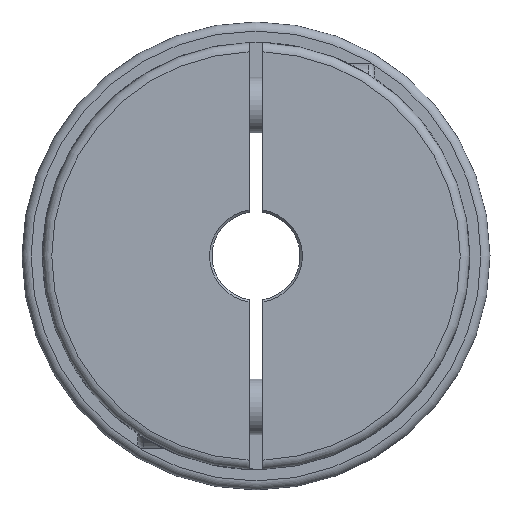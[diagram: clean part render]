
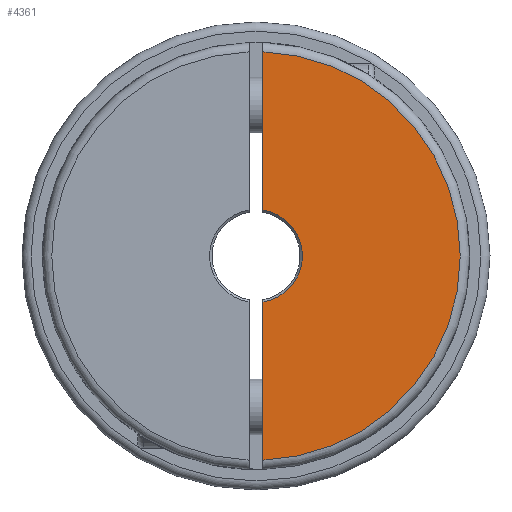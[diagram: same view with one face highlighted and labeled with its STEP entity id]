
A CAD part, left-side view. The second image highlights one B-rep face of the part: STEP entity #4361.
In plain terms, the highlighted planar face has unit normal (-1, 0, 0).
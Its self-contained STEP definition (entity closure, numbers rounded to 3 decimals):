
#154=LINE('',#7092,#306);
#163=LINE('',#7117,#315);
#306=VECTOR('',#5486,1000.);
#315=VECTOR('',#5499,1000.);
#438=PLANE('',#4734);
#1117=ORIENTED_EDGE('',*,*,#1605,.F.);
#1118=ORIENTED_EDGE('',*,*,#1532,.F.);
#1119=ORIENTED_EDGE('',*,*,#1594,.T.);
#1120=ORIENTED_EDGE('',*,*,#1618,.T.);
#1532=EDGE_CURVE('',#1861,#1863,#2087,.T.);
#1594=EDGE_CURVE('',#1861,#1912,#154,.T.);
#1605=EDGE_CURVE('',#1863,#1916,#163,.T.);
#1618=EDGE_CURVE('',#1912,#1916,#2128,.T.);
#1861=VERTEX_POINT('',#6654);
#1863=VERTEX_POINT('',#6657);
#1912=VERTEX_POINT('',#7093);
#1916=VERTEX_POINT('',#7118);
#2087=CIRCLE('',#4652,10.);
#2128=CIRCLE('',#4722,44.);
#2390=EDGE_LOOP('',(#1117,#1118,#1119,#1120));
#2692=FACE_BOUND('',#2390,.T.);
#4361=ADVANCED_FACE('',(#2692),#438,.T.);
#4652=AXIS2_PLACEMENT_3D('',#6656,#5360,#5361);
#4722=AXIS2_PLACEMENT_3D('',#7151,#5524,#5525);
#4734=AXIS2_PLACEMENT_3D('',#7163,#5548,#5549);
#5360=DIRECTION('',(-1.,0.,0.));
#5361=DIRECTION('',(0.,0.,1.));
#5486=DIRECTION('',(0.,0.,-1.));
#5499=DIRECTION('',(0.,0.,1.));
#5524=DIRECTION('',(-1.,0.,0.));
#5525=DIRECTION('',(0.,0.,1.));
#5548=DIRECTION('',(-1.,0.,0.));
#5549=DIRECTION('',(0.,0.,1.));
#6654=CARTESIAN_POINT('',(-38.434,-1.5,-9.887));
#6656=CARTESIAN_POINT('',(-38.434,0.,0.));
#6657=CARTESIAN_POINT('',(-38.434,-1.5,9.887));
#7092=CARTESIAN_POINT('',(-38.434,-1.5,46.));
#7093=CARTESIAN_POINT('',(-38.434,-1.5,-43.974));
#7117=CARTESIAN_POINT('',(-38.434,-1.5,46.));
#7118=CARTESIAN_POINT('',(-38.434,-1.5,43.974));
#7151=CARTESIAN_POINT('',(-38.434,0.,0.));
#7163=CARTESIAN_POINT('',(-38.434,0.,46.));
